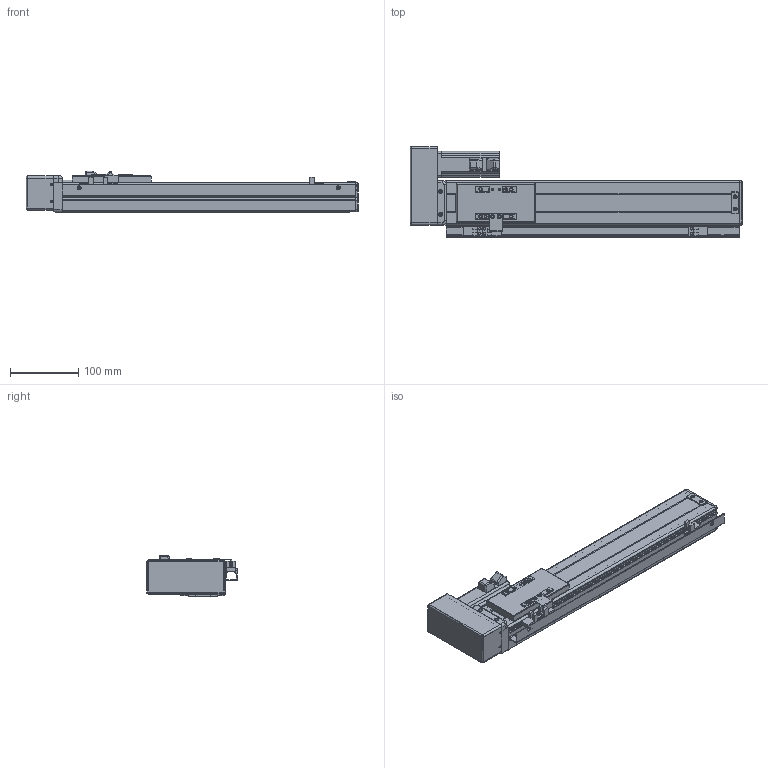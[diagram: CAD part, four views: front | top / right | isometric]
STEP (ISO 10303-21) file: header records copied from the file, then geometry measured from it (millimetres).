
FILE_DESCRIPTION (( 'STEP AP203' ), '1' );
FILE_NAME ('VT6-L10-C-S280-BR-P10-D4.STEP', '2015-10-26T06:15:58', ( '' ), ( '' ), 'SwSTEP 2.0', 'SolidWorks 2013', '' );
FILE_SCHEMA (( 'CONFIG_CONTROL_DESIGN' ));
Length unit declared in the file: millimetre
Products named in the file (17): T6-綴傷裔; ET6-BLRM絳寢_俴最280; ET6-BLRM滅鳥湍_280; ET6-BLRM佪裝_280; T6-BMLRヶ傷裔; T6-BMRLヶ傷裔揤啣; T6-BMRL肮祭湍謫欶; 侂狟100W MSMD012G1U; T6-BRL萇儂假蚾啣; T6-覜茼え; ET6-BC癹弇羲壽羞_280; EE-XS674; VT6-L10-C-S280-BR-P10-D4; ET6-BC耜啣_280; T6-賑雄殤; T6-裔啣; T6-揤輸
Assembly tree (19 placements, depth 2):
  VT6-L10-C-S280-BR-P10-D4
    ET6-BC耜啣_280  x2
    T6-賑雄殤
    T6-裔啣
    T6-揤輸
    T6-綴傷裔
    ET6-BLRM絳寢_俴最280
    ET6-BLRM滅鳥湍_280
    ET6-BLRM佪裝_280
    T6-BMLRヶ傷裔
    T6-BMRLヶ傷裔揤啣
    T6-BMRL肮祭湍謫欶
    侂狟100W MSMD012G1U
    T6-BRL萇儂假蚾啣
    T6-覜茼え
    ET6-BC癹弇羲壽羞_280
    EE-XS674  x3
Bounding box: 487 x 133 x 61 mm (x, y, z)
Volume: 676022.7 mm3; surface area: 405785.7 mm2
Topology: 19 solids, 19 shells, 885 faces, 2340 edges, 1480 vertices
Faces by surface type: cylinder 411, plane 374, cone 46, torus 36, sphere 18
Entity records: 27249 total; most frequent: CARTESIAN_POINT 4585, DIRECTION 4546, ORIENTED_EDGE 4198, EDGE_CURVE 2099, AXIS2_PLACEMENT_3D 1661, VERTEX_POINT 1340, LINE 1224, VECTOR 1224
